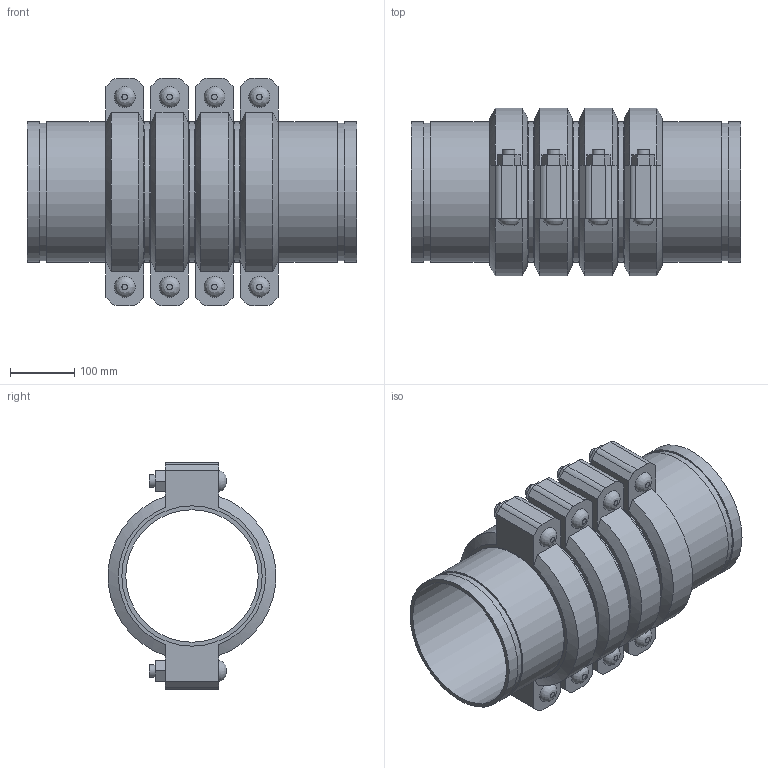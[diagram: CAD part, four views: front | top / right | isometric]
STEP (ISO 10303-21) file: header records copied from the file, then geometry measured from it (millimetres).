
FILE_DESCRIPTION(/* description */ ('VIC EXPANSION JOINT 4 COUPLINGS COMPRESSED STYLE 155 (OGS)','CAx-IF Rec.Pracs.---Representation and Presentation of Product Manufacturing Information (PMI)---4.0---2014-10-13'),/* implementation_level */ '2;1');
FILE_NAME(/* name */ 'C:\Users\kkamble\AppData\Roaming\Autodesk\ApplicationPlugins\Victaulic.Temp\A318\Victaulic_IPS_Expansion Joint_Compressed_4 Couplings_Style 155 (OGS)_8 (200).stp',/* time_stamp */ '2021-06-27T00:28:00+02:00',/* author */ ('kkamble'),/* organization */ ('Victaulic'),/* preprocessor_version */ 'ST-DEVELOPER v17.2',/* originating_system */ 'Autodesk Inventor 2019',/* authorisation */ '');
FILE_SCHEMA (('AP242_MANAGED_MODEL_BASED_3D_ENGINEERING_MIM_LF { 1 0 10303 442 1 1 4 }'));
Length unit declared in the file: inch
Products named in the file (4): 155-08.0; Nipple-08.0; Nipple-08.0_1; 075_4_Coup-08.0
Assembly tree (9 placements, depth 2):
  155-08.0
    Nipple-08.0  x2
    Nipple-08.0_1  x3
    075_4_Coup-08.0  x4
Bounding box: 514.35 x 261.72 x 354.84 mm (x, y, z)
Volume: 7373674.7 mm3; surface area: 1436763 mm2
Topology: 9 solids, 17 shells, 288 faces, 682 edges, 480 vertices
Faces by surface type: plane 174, cylinder 90, cone 16, bspline 8
Full cylindrical faces by diameter (mm): 19.05 x16, 21.209 x8, 206.985 x5, 212.725 x4, 214.401 x10, 219.075 x23
Entity records: 2794 total; most frequent: CARTESIAN_POINT 493, DIRECTION 461, ORIENTED_EDGE 386, EDGE_CURVE 193, AXIS2_PLACEMENT_3D 184, VERTEX_POINT 138, EDGE_LOOP 107, LINE 93
